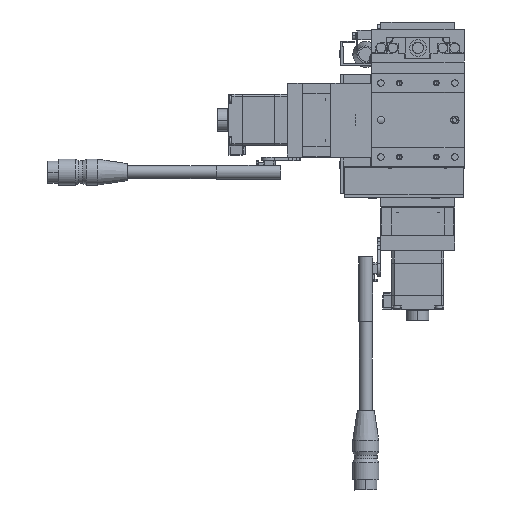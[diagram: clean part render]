
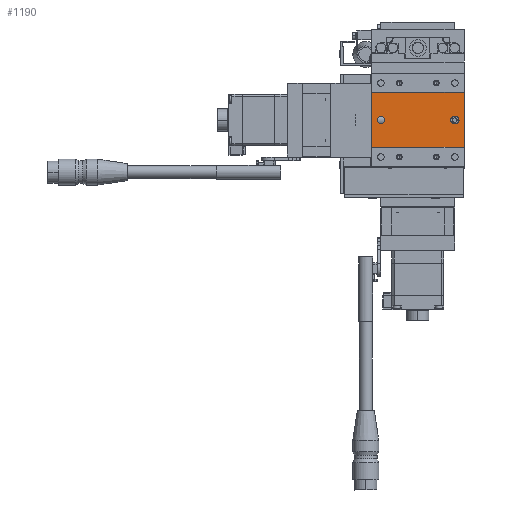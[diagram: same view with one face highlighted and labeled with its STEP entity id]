
A CAD part, front view. The second image highlights one B-rep face of the part: STEP entity #1190.
In plain terms, the highlighted planar face has unit normal (0, -1, 0).
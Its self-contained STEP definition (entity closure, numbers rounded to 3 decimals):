
#1190=ADVANCED_FACE('',(#3614,#3615,#3616),#3617,.F.);
#3614=FACE_BOUND('',#8223,.T.);
#3615=FACE_OUTER_BOUND('',#8224,.T.);
#3616=FACE_BOUND('',#8225,.T.);
#3617=PLANE('',#8226);
#8223=EDGE_LOOP('',(#14301,#14302,#14303,#14304));
#8224=EDGE_LOOP('',(#14305,#14306,#14307,#14308));
#8225=EDGE_LOOP('',(#14309,#14310,#14311));
#8226=AXIS2_PLACEMENT_3D('',#14312,#14313,#14314);
#14301=ORIENTED_EDGE('',*,*,#30036,.F.);
#14302=ORIENTED_EDGE('',*,*,#30037,.F.);
#14303=ORIENTED_EDGE('',*,*,#30038,.F.);
#14304=ORIENTED_EDGE('',*,*,#30039,.F.);
#14305=ORIENTED_EDGE('',*,*,#30021,.T.);
#14306=ORIENTED_EDGE('',*,*,#30040,.F.);
#14307=ORIENTED_EDGE('',*,*,#30041,.F.);
#14308=ORIENTED_EDGE('',*,*,#30042,.T.);
#14309=ORIENTED_EDGE('',*,*,#29926,.F.);
#14310=ORIENTED_EDGE('',*,*,#29925,.F.);
#14311=ORIENTED_EDGE('',*,*,#30043,.F.);
#14312=CARTESIAN_POINT('',(-25.,0.35,-14.65));
#14313=DIRECTION('',(0.,1.0,0.));
#14314=DIRECTION('',(-1.0,0.,0.));
#29925=EDGE_CURVE('',#35609,#35611,#35612,.F.);
#29926=EDGE_CURVE('',#35611,#35605,#35613,.F.);
#30021=EDGE_CURVE('',#35790,#35788,#35791,.T.);
#30036=EDGE_CURVE('',#35818,#35819,#35820,.F.);
#30037=EDGE_CURVE('',#35821,#35818,#35822,.T.);
#30038=EDGE_CURVE('',#35823,#35821,#35824,.F.);
#30039=EDGE_CURVE('',#35819,#35823,#35825,.T.);
#30040=EDGE_CURVE('',#35826,#35788,#35827,.T.);
#30041=EDGE_CURVE('',#35828,#35826,#35829,.T.);
#30042=EDGE_CURVE('',#35828,#35790,#35830,.T.);
#30043=EDGE_CURVE('',#35605,#35609,#35831,.F.);
#35605=VERTEX_POINT('',#44694);
#35609=VERTEX_POINT('',#44699);
#35611=VERTEX_POINT('',#44702);
#35612=CIRCLE('',#44703,2.0);
#35613=CIRCLE('',#44704,2.0);
#35788=VERTEX_POINT('',#44933);
#35790=VERTEX_POINT('',#44936);
#35791=LINE('',#44937,#44938);
#35818=VERTEX_POINT('',#44978);
#35819=VERTEX_POINT('',#44979);
#35820=CIRCLE('',#44980,2.0);
#35821=VERTEX_POINT('',#44981);
#35822=LINE('',#44982,#44983);
#35823=VERTEX_POINT('',#44984);
#35824=CIRCLE('',#44985,2.0);
#35825=LINE('',#44986,#44987);
#35826=VERTEX_POINT('',#44988);
#35827=LINE('',#44989,#44990);
#35828=VERTEX_POINT('',#44991);
#35829=LINE('',#44992,#44993);
#35830=LINE('',#44994,#44995);
#35831=CIRCLE('',#44996,2.0);
#44694=CARTESIAN_POINT('',(-18.0,0.35,0.));
#44699=CARTESIAN_POINT('',(-22.0,0.35,0.));
#44702=CARTESIAN_POINT('',(-20.,0.35,-2.));
#44703=AXIS2_PLACEMENT_3D('',#56741,#56742,#56743);
#44704=AXIS2_PLACEMENT_3D('',#56744,#56745,#56746);
#44933=CARTESIAN_POINT('',(25.,0.35,14.65));
#44936=CARTESIAN_POINT('',(25.,0.35,-14.65));
#44937=CARTESIAN_POINT('',(25.,0.35,-14.65));
#44938=VECTOR('',#56919,1000.0);
#44978=CARTESIAN_POINT('',(20.25,0.35,-2.));
#44979=CARTESIAN_POINT('',(20.25,0.35,2.));
#44980=AXIS2_PLACEMENT_3D('',#56936,#56937,#56938);
#44981=CARTESIAN_POINT('',(19.75,0.35,-2.));
#44982=CARTESIAN_POINT('',(-25.,0.35,-2.));
#44983=VECTOR('',#56939,1000.0);
#44984=CARTESIAN_POINT('',(19.75,0.35,2.));
#44985=AXIS2_PLACEMENT_3D('',#56940,#56941,#56942);
#44986=CARTESIAN_POINT('',(-25.,0.35,2.));
#44987=VECTOR('',#56943,1000.0);
#44988=CARTESIAN_POINT('',(-25.,0.35,14.65));
#44989=CARTESIAN_POINT('',(-25.,0.35,14.65));
#44990=VECTOR('',#56944,1000.0);
#44991=CARTESIAN_POINT('',(-25.,0.35,-14.65));
#44992=CARTESIAN_POINT('',(-25.,0.35,-14.65));
#44993=VECTOR('',#56945,1000.0);
#44994=CARTESIAN_POINT('',(-25.,0.35,-14.65));
#44995=VECTOR('',#56946,1000.0);
#44996=AXIS2_PLACEMENT_3D('',#56947,#56948,#56949);
#56741=CARTESIAN_POINT('',(-20.0,0.35,0.));
#56742=DIRECTION('',(0.,1.0,0.));
#56743=DIRECTION('',(0.,0.,-1.0));
#56744=CARTESIAN_POINT('',(-20.0,0.35,0.));
#56745=DIRECTION('',(0.,1.0,0.));
#56746=DIRECTION('',(0.,0.,-1.0));
#56919=DIRECTION('',(0.,0.,1.0));
#56936=CARTESIAN_POINT('',(20.25,0.35,0.));
#56937=DIRECTION('',(0.,1.0,0.));
#56938=DIRECTION('',(0.,0.,-1.0));
#56939=DIRECTION('',(1.0,0.,0.));
#56940=CARTESIAN_POINT('',(19.75,0.35,0.));
#56941=DIRECTION('',(0.,1.0,0.));
#56942=DIRECTION('',(0.,0.,-1.0));
#56943=DIRECTION('',(-1.0,0.,0.));
#56944=DIRECTION('',(1.0,0.,0.));
#56945=DIRECTION('',(0.,0.,1.0));
#56946=DIRECTION('',(1.0,0.,0.));
#56947=CARTESIAN_POINT('',(-20.0,0.35,0.));
#56948=DIRECTION('',(0.,1.0,0.));
#56949=DIRECTION('',(0.,0.,-1.0));
